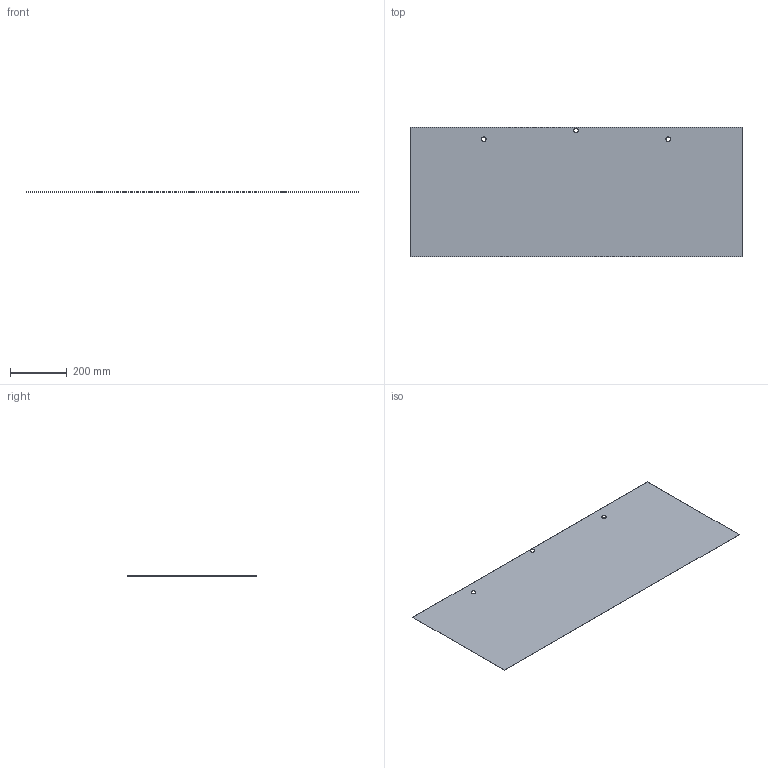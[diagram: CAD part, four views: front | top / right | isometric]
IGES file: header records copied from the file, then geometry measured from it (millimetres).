
Start section: SolidWorks IGES file using NURBS representation for surfaces
Global section: file name: G:\VICCARBE\PRODUCTOS\12-LEG-IN\04-MODELADOS (PLANOS)\SOLIDWORKS\LEG_IN 2011\ENSAMBLAJES\Mesas 3D\IGES\ACCESORIES\VICCARBE_LEFB160.IGS; native system: SolidWorks 2009; preprocessor: SolidWorks 2009; author: RUBEN; date: 111024.104825; units: millimetre
Bounding box: 1170 x 456 x 0.5 mm (x, y, z)
Surface area: 1067535 mm2 (no closed solid volume)
Topology: 0 solids, 0 shells, 12 faces, 240 edges, 240 vertices
Faces by surface type: bspline 12
